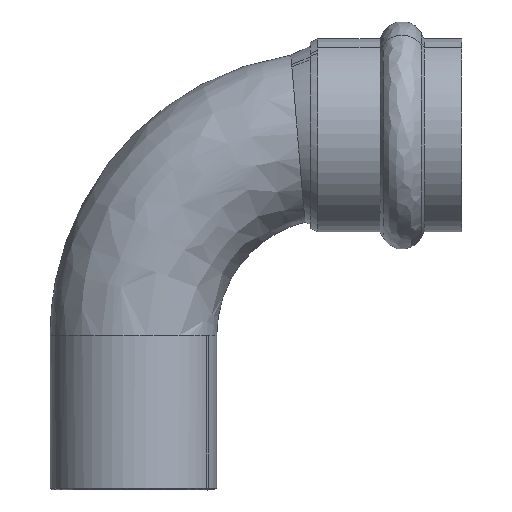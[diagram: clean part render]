
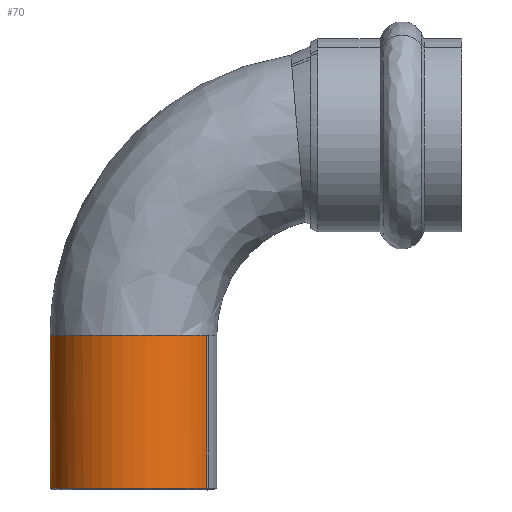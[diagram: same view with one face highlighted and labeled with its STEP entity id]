
A CAD part, front view. The second image highlights one B-rep face of the part: STEP entity #70.
In plain terms, the highlighted free-form (B-spline) face has degree [1, 2] with [2, 9] control points.
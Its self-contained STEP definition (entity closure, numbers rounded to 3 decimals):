
#70=ADVANCED_FACE('',(#163),#164,.T.);
#163=FACE_OUTER_BOUND('',#398,.T.);
#164=(B_SPLINE_SURFACE(1,2,((#400,#401,#402,#403,#404,#405,#406,#407,#408),(#409,#410,#411,#412,#413,#414,#415,#416,#417)),.UNSPECIFIED.,.F.,.T.,.F.)B_SPLINE_SURFACE_WITH_KNOTS((2,2),(3,2,2,2,3),(-1.836,0.),(0.0,21.991,43.982,65.973,87.965),.UNSPECIFIED.)RATIONAL_B_SPLINE_SURFACE(((1.0,0.707,1.0,0.707,1.0,0.707,1.0,0.707,1.0),(1.0,0.707,1.0,0.707,1.0,0.707,1.0,0.707,1.0)))BOUNDED_SURFACE()REPRESENTATION_ITEM('')GEOMETRIC_REPRESENTATION_ITEM()SURFACE());
#398=EDGE_LOOP('',(#1304,#1305,#1306,#1307,#1308));
#400=CARTESIAN_POINT('',(12.652,-5.994,-33.6));
#401=CARTESIAN_POINT('',(18.646,6.659,-33.6));
#402=CARTESIAN_POINT('',(5.994,12.652,-33.6));
#403=CARTESIAN_POINT('',(-6.659,18.646,-33.6));
#404=CARTESIAN_POINT('',(-12.652,5.994,-33.6));
#405=CARTESIAN_POINT('',(-18.646,-6.659,-33.6));
#406=CARTESIAN_POINT('',(-5.994,-12.652,-33.6));
#407=CARTESIAN_POINT('',(6.659,-18.646,-33.6));
#408=CARTESIAN_POINT('',(12.652,-5.994,-33.6));
#409=CARTESIAN_POINT('',(12.652,-5.994,-59.3));
#410=CARTESIAN_POINT('',(18.646,6.659,-59.3));
#411=CARTESIAN_POINT('',(5.994,12.652,-59.3));
#412=CARTESIAN_POINT('',(-6.659,18.646,-59.3));
#413=CARTESIAN_POINT('',(-12.652,5.994,-59.3));
#414=CARTESIAN_POINT('',(-18.646,-6.659,-59.3));
#415=CARTESIAN_POINT('',(-5.994,-12.652,-59.3));
#416=CARTESIAN_POINT('',(6.659,-18.646,-59.3));
#417=CARTESIAN_POINT('',(12.652,-5.994,-59.3));
#1304=ORIENTED_EDGE('',*,*,#1516,.F.);
#1305=ORIENTED_EDGE('',*,*,#1520,.T.);
#1306=ORIENTED_EDGE('',*,*,#1521,.F.);
#1307=ORIENTED_EDGE('',*,*,#1522,.F.);
#1308=ORIENTED_EDGE('',*,*,#1523,.F.);
#1516=EDGE_CURVE('',#1662,#1664,#1665,.T.);
#1520=EDGE_CURVE('',#1662,#1670,#1671,.T.);
#1521=EDGE_CURVE('',#1672,#1670,#1673,.T.);
#1522=EDGE_CURVE('',#1674,#1672,#1675,.T.);
#1523=EDGE_CURVE('',#1664,#1674,#1676,.T.);
#1662=VERTEX_POINT('',#2092);
#1664=VERTEX_POINT('',#2107);
#1665=B_SPLINE_CURVE_WITH_KNOTS('',1,(#2108,#2109),.UNSPECIFIED.,.F.,.F.,(2,2),(0.,1.836),.UNSPECIFIED.);
#1670=VERTEX_POINT('',#2138);
#1671=(B_SPLINE_CURVE(2,(#2140,#2141,#2142,#2143,#2144),.UNSPECIFIED.,.F.,.F.)B_SPLINE_CURVE_WITH_KNOTS((3,2,3),(0.063,1.571,3.142),.UNSPECIFIED.)RATIONAL_B_SPLINE_CURVE((0.977,0.719,1.0,0.707,1.0))BOUNDED_CURVE()REPRESENTATION_ITEM('')GEOMETRIC_REPRESENTATION_ITEM()CURVE());
#1672=VERTEX_POINT('',#2151);
#1673=B_SPLINE_CURVE_WITH_KNOTS('',1,(#2152,#2153),.UNSPECIFIED.,.F.,.F.,(2,2),(-1.836,0.),.UNSPECIFIED.);
#1674=VERTEX_POINT('',#2154);
#1675=(B_SPLINE_CURVE(2,(#2156,#2157,#2158,#2159,#2160,#2161,#2162,#2163,#2164),.UNSPECIFIED.,.F.,.F.)B_SPLINE_CURVE_WITH_KNOTS((3,2,2,2,3),(0.5,1.946,3.392,4.837,6.283),.UNSPECIFIED.)RATIONAL_B_SPLINE_CURVE((1.0,0.75,1.0,0.75,1.0,0.75,1.0,0.75,1.0))BOUNDED_CURVE()REPRESENTATION_ITEM('')GEOMETRIC_REPRESENTATION_ITEM()CURVE());
#1676=(B_SPLINE_CURVE(2,(#2172,#2173,#2174,#2175,#2176,#2177,#2178,#2179,#2180),.UNSPECIFIED.,.F.,.F.)B_SPLINE_CURVE_WITH_KNOTS((3,2,2,2,3),(0.5,1.946,3.392,4.837,6.283),.UNSPECIFIED.)RATIONAL_B_SPLINE_CURVE((1.0,0.75,1.0,0.75,1.0,0.75,1.0,0.75,1.0))BOUNDED_CURVE()REPRESENTATION_ITEM('')GEOMETRIC_REPRESENTATION_ITEM()CURVE());
#2092=CARTESIAN_POINT('',(-12.652,5.994,-59.3));
#2107=CARTESIAN_POINT('',(-12.652,5.994,-33.6));
#2108=CARTESIAN_POINT('',(-12.652,5.994,-59.3));
#2109=CARTESIAN_POINT('',(-12.652,5.994,-33.6));
#2138=CARTESIAN_POINT('',(12.286,-6.712,-59.3));
#2140=CARTESIAN_POINT('',(-12.652,5.994,-59.3));
#2141=CARTESIAN_POINT('',(-18.31,-5.95,-59.3));
#2142=CARTESIAN_POINT('',(-6.712,-12.286,-59.3));
#2143=CARTESIAN_POINT('',(5.574,-18.998,-59.3));
#2144=CARTESIAN_POINT('',(12.286,-6.712,-59.3));
#2151=CARTESIAN_POINT('',(12.286,-6.712,-33.6));
#2152=CARTESIAN_POINT('',(12.286,-6.712,-33.6));
#2153=CARTESIAN_POINT('',(12.286,-6.712,-59.3));
#2154=CARTESIAN_POINT('',(-14.,0.,-33.6));
#2156=CARTESIAN_POINT('',(14.,0.,-33.6));
#2157=CARTESIAN_POINT('',(14.,12.351,-33.6));
#2158=CARTESIAN_POINT('',(1.745,13.891,-33.6));
#2159=CARTESIAN_POINT('',(-10.509,15.431,-33.6));
#2160=CARTESIAN_POINT('',(-13.565,3.464,-33.6));
#2161=CARTESIAN_POINT('',(-16.62,-8.503,-33.6));
#2162=CARTESIAN_POINT('',(-5.128,-13.027,-33.6));
#2163=CARTESIAN_POINT('',(6.365,-17.551,-33.6));
#2164=CARTESIAN_POINT('',(12.286,-6.712,-33.6));
#2172=CARTESIAN_POINT('',(14.,0.,-33.6));
#2173=CARTESIAN_POINT('',(14.,12.351,-33.6));
#2174=CARTESIAN_POINT('',(1.745,13.891,-33.6));
#2175=CARTESIAN_POINT('',(-10.509,15.431,-33.6));
#2176=CARTESIAN_POINT('',(-13.565,3.464,-33.6));
#2177=CARTESIAN_POINT('',(-16.62,-8.503,-33.6));
#2178=CARTESIAN_POINT('',(-5.128,-13.027,-33.6));
#2179=CARTESIAN_POINT('',(6.365,-17.551,-33.6));
#2180=CARTESIAN_POINT('',(12.286,-6.712,-33.6));
